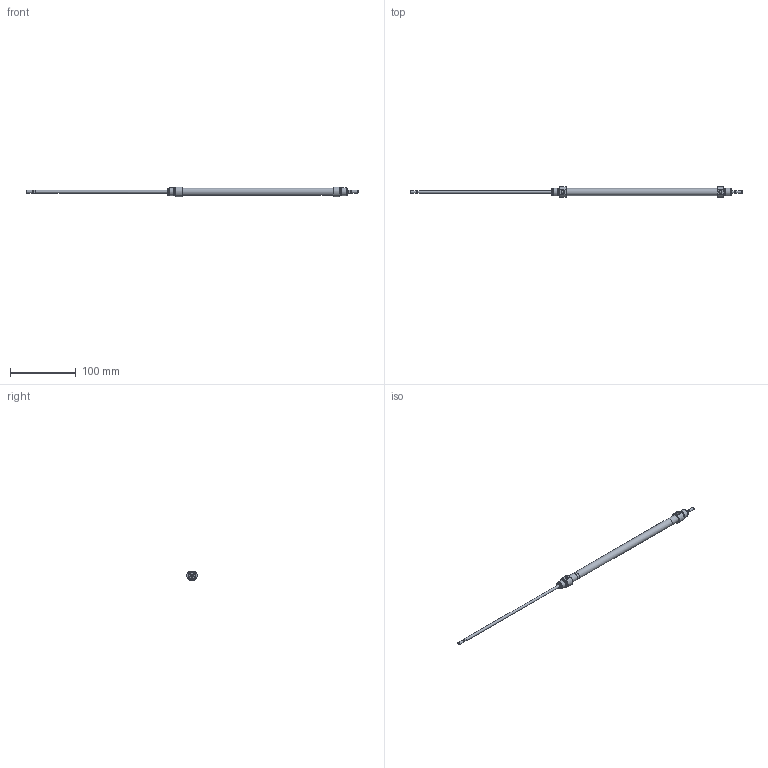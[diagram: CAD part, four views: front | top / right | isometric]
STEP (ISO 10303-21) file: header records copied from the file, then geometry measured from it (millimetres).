
FILE_DESCRIPTION( ( 'STEP AP203' ), '1' );
FILE_NAME( '//expscmdclustefs.cadenas.external/client_exchange/iodir/jobs/output/wkb68274676_no0/STEP/M101-010-0200-M__0__2_03.stp', ' ', ( ' ' ), ( ' ' ), 'PSStep 15.0.47', 'PARTsolutions', ' ' );
FILE_SCHEMA( ( 'CONFIG_CONTROL_DESIGN' ) );
Length unit declared in the file: millimetre
Products named in the file (3): M101-010-0200-M [0]; HI_M101-010-0200-M-[0]-z; HI_M101-010-0200-M-[0]-k
Assembly tree (2 placements, depth 2):
  M101-010-0200-M [0]
    HI_M101-010-0200-M-[0]-z
    HI_M101-010-0200-M-[0]-k
Bounding box: 506 x 15.77 x 14.87 mm (x, y, z)
Volume: 18986 mm3; surface area: 24688.4 mm2
Topology: 2 solids, 2 shells, 71 faces, 145 edges, 88 vertices
Faces by surface type: plane 32, cylinder 23, cone 14, torus 2
Full cylindrical faces by diameter (mm): 3.141 x2, 4 x6, 4.134 x2, 10 x2, 10.466 x4, 11.3 x1, 12 x4
Entity records: 1838 total; most frequent: CARTESIAN_POINT 358, DIRECTION 312, ORIENTED_EDGE 212, AXIS2_PLACEMENT_3D 140, EDGE_LOOP 120, EDGE_CURVE 106, FACE_OUTER_BOUND 94, VERTEX_POINT 82
